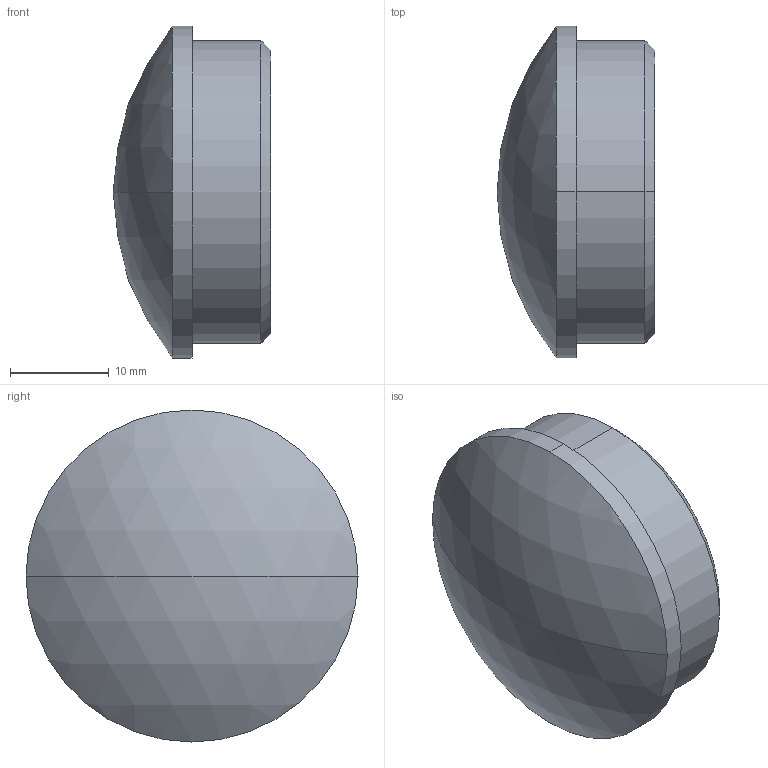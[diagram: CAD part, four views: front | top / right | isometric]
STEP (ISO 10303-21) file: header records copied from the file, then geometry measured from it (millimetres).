
FILE_DESCRIPTION (( 'STEP AP203' ), '1' );
FILE_NAME ('3D_GR1392_DN33.7x1.5_18380170.STEP', '2024-09-21T10:16:08', ( '' ), ( '' ), 'SwSTEP 2.0', 'SolidWorks 2024', '' );
FILE_SCHEMA (( 'CONFIG_CONTROL_DESIGN' ));
Length unit declared in the file: millimetre
Products named in the file (1): 3D_GR1392_DN33.7x1.5_18380170
Bounding box: 16 x 33.7 x 33.7 mm (x, y, z)
Volume: 10447.6 mm3; surface area: 2822.6 mm2
Topology: 1 solids, 1 shells, 10 faces, 20 edges, 13 vertices
Faces by surface type: cylinder 4, cone 2, sphere 2, plane 2
Entity records: 347 total; most frequent: DIRECTION 56, CARTESIAN_POINT 44, ORIENTED_EDGE 40, AXIS2_PLACEMENT_3D 25, EDGE_CURVE 20, CIRCLE 14, VERTEX_POINT 13, EDGE_LOOP 11
